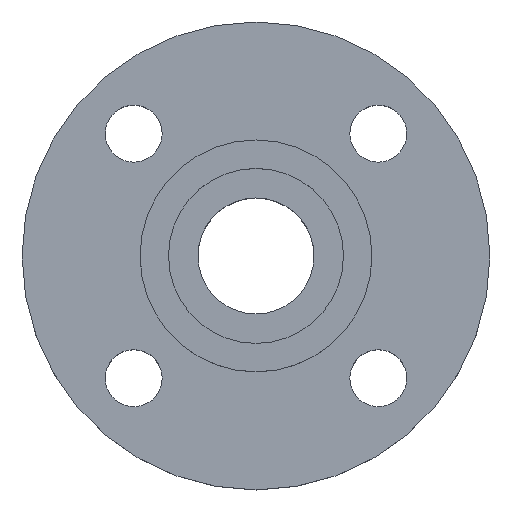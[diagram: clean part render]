
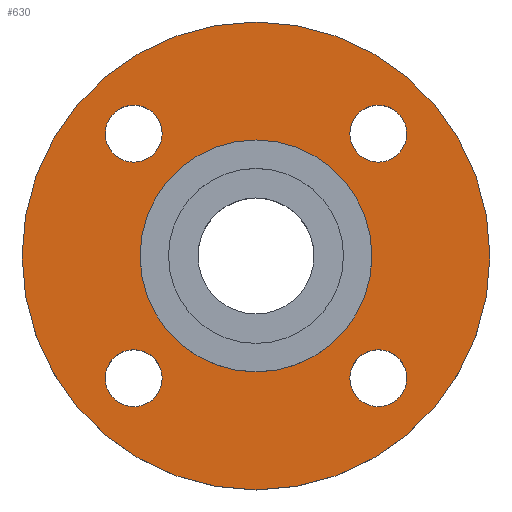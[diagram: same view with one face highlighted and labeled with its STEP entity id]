
A CAD part, top view. The second image highlights one B-rep face of the part: STEP entity #630.
In plain terms, the highlighted planar face has unit normal (0, 0, 1).
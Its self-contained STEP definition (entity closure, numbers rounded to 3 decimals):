
#1 = EDGE_CURVE ( 'NONE', #857, #678, #294, .T. ) ;
#46 = CIRCLE ( 'NONE', #422, 7. ) ;
#58 = CARTESIAN_POINT ( 'NONE',  ( 37.052, -30.052, -4.5 ) ) ;
#59 = CARTESIAN_POINT ( 'NONE',  ( -37.052, 30.052, -4.5 ) ) ;
#61 = CARTESIAN_POINT ( 'NONE',  ( 28.5, 0., -4.5 ) ) ;
#69 = CARTESIAN_POINT ( 'NONE',  ( -23.052, 30.052, -4.5 ) ) ;
#88 = CARTESIAN_POINT ( 'NONE',  ( 23.052, 30.052, -4.5 ) ) ;
#107 = CARTESIAN_POINT ( 'NONE',  ( 23.052, -30.052, -4.5 ) ) ;
#111 = CARTESIAN_POINT ( 'NONE',  ( -57.5, 0., -4.5 ) ) ;
#112 = CARTESIAN_POINT ( 'NONE',  ( 37.052, 30.052, -4.5 ) ) ;
#119 = CARTESIAN_POINT ( 'NONE',  ( -28.5, 0., -4.5 ) ) ;
#127 = CARTESIAN_POINT ( 'NONE',  ( 57.5, 0., -4.5 ) ) ;
#147 = CARTESIAN_POINT ( 'NONE',  ( -37.052, -30.052, -4.5 ) ) ;
#151 = CARTESIAN_POINT ( 'NONE',  ( -23.052, -30.052, -4.5 ) ) ;
#152 = EDGE_CURVE ( 'NONE', #691, #659, #159, .T. ) ;
#157 = DIRECTION ( 'NONE',  ( 1., 0., 0. ) ) ;
#158 = DIRECTION ( 'NONE',  ( 0., 0., -1. ) ) ;
#159 = CIRCLE ( 'NONE', #161, 57.5 ) ;
#160 = CARTESIAN_POINT ( 'NONE',  ( -30.052, 30.052, -4.5 ) ) ;
#161 = AXIS2_PLACEMENT_3D ( 'NONE', #349, #350, #351 ) ;
#162 = CIRCLE ( 'NONE', #163, 7. ) ;
#163 = AXIS2_PLACEMENT_3D ( 'NONE', #353, #354, #373 ) ;
#164 = CARTESIAN_POINT ( 'NONE',  ( -30.052, -30.052, -4.5 ) ) ;
#170 = DIRECTION ( 'NONE',  ( 1., 0., 0. ) ) ;
#172 = DIRECTION ( 'NONE',  ( 0., 0., 1. ) ) ;
#175 = CARTESIAN_POINT ( 'NONE',  ( 28.5, 0., -4.5 ) ) ;
#176 = PLANE ( 'NONE',  #404 ) ;
#177 = FACE_OUTER_BOUND ( 'NONE', #666, .T. ) ;
#179 = FACE_BOUND ( 'NONE', #791, .T. ) ;
#180 = FACE_BOUND ( 'NONE', #782, .T. ) ;
#182 = FACE_BOUND ( 'NONE', #665, .T. ) ;
#183 = FACE_BOUND ( 'NONE', #688, .T. ) ;
#188 = FACE_BOUND ( 'NONE', #528, .T. ) ;
#191 = EDGE_CURVE ( 'NONE', #859, #801, #162, .T. ) ;
#211 = CIRCLE ( 'NONE', #212, 7. ) ;
#212 = AXIS2_PLACEMENT_3D ( 'NONE', #429, #430, #433 ) ;
#213 = DIRECTION ( 'NONE',  ( -1., 0., 0. ) ) ;
#216 = DIRECTION ( 'NONE',  ( 0., 0., -1. ) ) ;
#217 = CARTESIAN_POINT ( 'NONE',  ( 0., 0., -4.5 ) ) ;
#221 = CIRCLE ( 'NONE', #222, 7. ) ;
#222 = AXIS2_PLACEMENT_3D ( 'NONE', #466, #469, #472 ) ;
#231 = AXIS2_PLACEMENT_3D ( 'NONE', #164, #158, #157 ) ;
#246 = CIRCLE ( 'NONE', #250, 7. ) ;
#250 = AXIS2_PLACEMENT_3D ( 'NONE', #503, #504, #505 ) ;
#252 = EDGE_CURVE ( 'NONE', #698, #860, #211, .T. ) ;
#260 = CIRCLE ( 'NONE', #262, 7. ) ;
#262 = AXIS2_PLACEMENT_3D ( 'NONE', #512, #515, #521 ) ;
#276 = EDGE_CURVE ( 'NONE', #689, #768, #221, .T. ) ;
#292 = AXIS2_PLACEMENT_3D ( 'NONE', #865, #866, #867 ) ;
#294 = CIRCLE ( 'NONE', #292, 28.5 ) ;
#302 = ORIENTED_EDGE ( 'NONE', *, *, #252, .T. ) ;
#338 = EDGE_CURVE ( 'NONE', #638, #641, #246, .T. ) ;
#349 = CARTESIAN_POINT ( 'NONE',  ( 0., 0., -4.5 ) ) ;
#350 = DIRECTION ( 'NONE',  ( 0., 0., -1. ) ) ;
#351 = DIRECTION ( 'NONE',  ( -1., 0., 0. ) ) ;
#353 = CARTESIAN_POINT ( 'NONE',  ( -30.052, 30.052, -4.5 ) ) ;
#354 = DIRECTION ( 'NONE',  ( 0., 0., -1. ) ) ;
#358 = EDGE_CURVE ( 'NONE', #860, #698, #260, .T. ) ;
#366 = DIRECTION ( 'NONE',  ( -1., 0., 0. ) ) ;
#367 = DIRECTION ( 'NONE',  ( 0., 0., -1. ) ) ;
#368 = CARTESIAN_POINT ( 'NONE',  ( 0., 0., -4.5 ) ) ;
#370 = AXIS2_PLACEMENT_3D ( 'NONE', #217, #216, #213 ) ;
#373 = DIRECTION ( 'NONE',  ( 1., 0., 0. ) ) ;
#380 = CIRCLE ( 'NONE', #635, 28.5 ) ;
#399 = CARTESIAN_POINT ( 'NONE',  ( 30.052, 30.052, -4.5 ) ) ;
#403 = DIRECTION ( 'NONE',  ( 1., 0., 0. ) ) ;
#404 = AXIS2_PLACEMENT_3D ( 'NONE', #175, #172, #170 ) ;
#418 = DIRECTION ( 'NONE',  ( 0., 0., -1. ) ) ;
#422 = AXIS2_PLACEMENT_3D ( 'NONE', #399, #481, #403 ) ;
#429 = CARTESIAN_POINT ( 'NONE',  ( 30.052, -30.052, -4.5 ) ) ;
#430 = DIRECTION ( 'NONE',  ( 0., 0., -1. ) ) ;
#433 = DIRECTION ( 'NONE',  ( 1., 0., 0. ) ) ;
#464 = EDGE_CURVE ( 'NONE', #768, #689, #46, .T. ) ;
#466 = CARTESIAN_POINT ( 'NONE',  ( 30.052, 30.052, -4.5 ) ) ;
#469 = DIRECTION ( 'NONE',  ( 0., 0., -1. ) ) ;
#472 = DIRECTION ( 'NONE',  ( 1., 0., 0. ) ) ;
#481 = DIRECTION ( 'NONE',  ( 0., 0., -1. ) ) ;
#495 = CIRCLE ( 'NONE', #231, 7. ) ;
#503 = CARTESIAN_POINT ( 'NONE',  ( -30.052, -30.052, -4.5 ) ) ;
#504 = DIRECTION ( 'NONE',  ( 0., 0., -1. ) ) ;
#505 = DIRECTION ( 'NONE',  ( 1., 0., 0. ) ) ;
#512 = CARTESIAN_POINT ( 'NONE',  ( 30.052, -30.052, -4.5 ) ) ;
#515 = DIRECTION ( 'NONE',  ( 0., 0., -1. ) ) ;
#516 = AXIS2_PLACEMENT_3D ( 'NONE', #160, #418, #593 ) ;
#517 = EDGE_CURVE ( 'NONE', #801, #859, #556, .T. ) ;
#521 = DIRECTION ( 'NONE',  ( 1., 0., 0. ) ) ;
#528 = EDGE_LOOP ( 'NONE', ( #764, #302 ) ) ;
#539 = EDGE_CURVE ( 'NONE', #678, #857, #380, .T. ) ;
#540 = CIRCLE ( 'NONE', #370, 57.5 ) ;
#556 = CIRCLE ( 'NONE', #516, 7. ) ;
#586 = EDGE_CURVE ( 'NONE', #659, #691, #540, .T. ) ;
#593 = DIRECTION ( 'NONE',  ( 1., 0., 0. ) ) ;
#630 = ADVANCED_FACE ( 'NONE', ( #188, #183, #182, #180, #179, #177 ), #176, .T. ) ;
#633 = EDGE_CURVE ( 'NONE', #641, #638, #495, .T. ) ;
#635 = AXIS2_PLACEMENT_3D ( 'NONE', #368, #367, #366 ) ;
#638 = VERTEX_POINT ( 'NONE', #151 ) ;
#641 = VERTEX_POINT ( 'NONE', #147 ) ;
#659 = VERTEX_POINT ( 'NONE', #127 ) ;
#665 = EDGE_LOOP ( 'NONE', ( #769, #771 ) ) ;
#666 = EDGE_LOOP ( 'NONE', ( #777, #780 ) ) ;
#678 = VERTEX_POINT ( 'NONE', #119 ) ;
#688 = EDGE_LOOP ( 'NONE', ( #765, #766 ) ) ;
#689 = VERTEX_POINT ( 'NONE', #112 ) ;
#691 = VERTEX_POINT ( 'NONE', #111 ) ;
#698 = VERTEX_POINT ( 'NONE', #107 ) ;
#764 = ORIENTED_EDGE ( 'NONE', *, *, #358, .T. ) ;
#765 = ORIENTED_EDGE ( 'NONE', *, *, #338, .T. ) ;
#766 = ORIENTED_EDGE ( 'NONE', *, *, #633, .T. ) ;
#768 = VERTEX_POINT ( 'NONE', #88 ) ;
#769 = ORIENTED_EDGE ( 'NONE', *, *, #517, .T. ) ;
#771 = ORIENTED_EDGE ( 'NONE', *, *, #191, .T. ) ;
#772 = ORIENTED_EDGE ( 'NONE', *, *, #276, .T. ) ;
#774 = ORIENTED_EDGE ( 'NONE', *, *, #464, .T. ) ;
#775 = ORIENTED_EDGE ( 'NONE', *, *, #539, .T. ) ;
#776 = ORIENTED_EDGE ( 'NONE', *, *, #1, .T. ) ;
#777 = ORIENTED_EDGE ( 'NONE', *, *, #586, .F. ) ;
#780 = ORIENTED_EDGE ( 'NONE', *, *, #152, .F. ) ;
#782 = EDGE_LOOP ( 'NONE', ( #772, #774 ) ) ;
#791 = EDGE_LOOP ( 'NONE', ( #775, #776 ) ) ;
#801 = VERTEX_POINT ( 'NONE', #69 ) ;
#857 = VERTEX_POINT ( 'NONE', #61 ) ;
#859 = VERTEX_POINT ( 'NONE', #59 ) ;
#860 = VERTEX_POINT ( 'NONE', #58 ) ;
#865 = CARTESIAN_POINT ( 'NONE',  ( 0., 0., -4.5 ) ) ;
#866 = DIRECTION ( 'NONE',  ( 0., 0., -1. ) ) ;
#867 = DIRECTION ( 'NONE',  ( -1., 0., 0. ) ) ;
